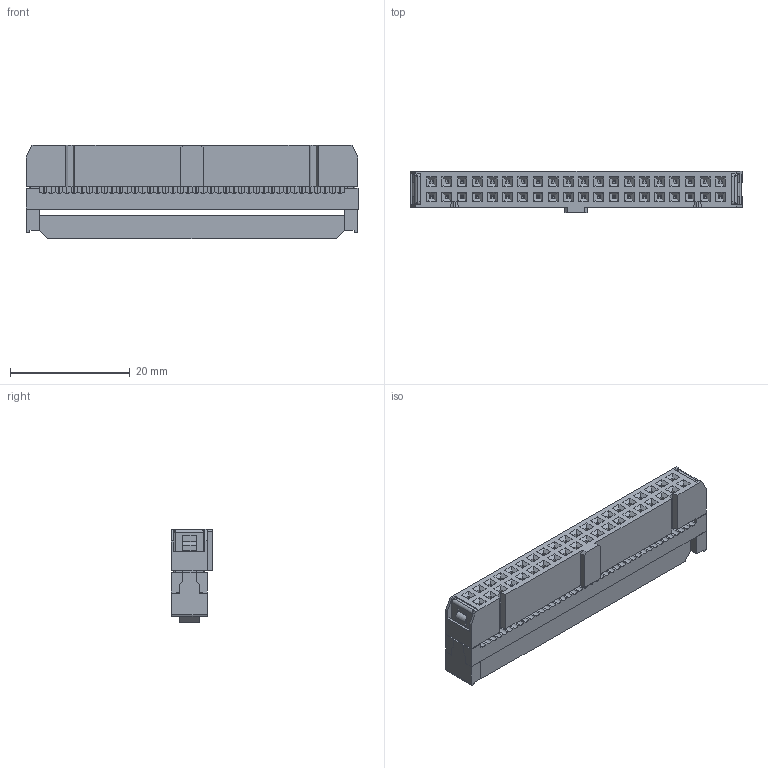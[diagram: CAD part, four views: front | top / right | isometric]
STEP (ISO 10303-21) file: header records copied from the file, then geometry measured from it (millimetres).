
FILE_DESCRIPTION(('FreeCAD Model'),'2;1');
FILE_NAME('C:/Users/Metaltex-99/Desktop/L-40.stp','2020-12-09T08:31:41', ('Engenharia Metaltex'),('Metaltex'),'Open CASCADE STEP processor 7.3' ,'FreeCAD','Unknown');
FILE_SCHEMA(('AUTOMOTIVE_DESIGN { 1 0 10303 214 1 1 1 1 }'));
Length unit declared in the file: millimetre
Products named in the file (4): L-40; 2; 3; 1
Assembly tree (3 placements, depth 2):
  L-40
    2
    3
    1
Bounding box: 55.48 x 6.86 x 15.7 mm (x, y, z)
Volume: 1712.6 mm3; surface area: 6867.7 mm2
Topology: 2 solids, 43 shells, 2297 faces, 6309 edges, 4092 vertices
Faces by surface type: plane 1755, cylinder 522, extrusion 8, sphere 4, torus 4, bspline 4
Entity records: 156159 total; most frequent: CARTESIAN_POINT 28032, DIRECTION 24158, VECTOR 16514, LINE 16506, ORIENTED_EDGE 12610, PCURVE 12610, DEFINITIONAL_REPRESENTATION 12610, EDGE_CURVE 6305
